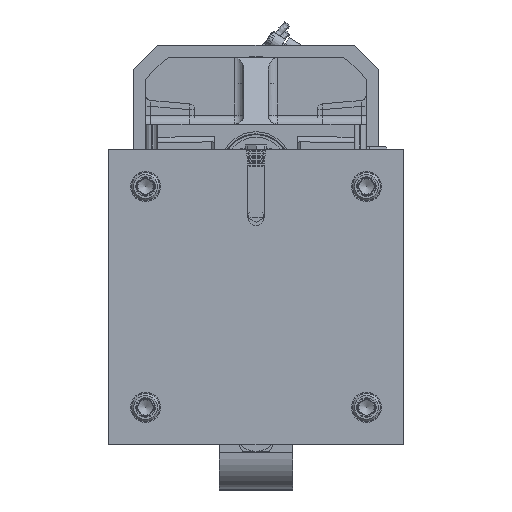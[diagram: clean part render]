
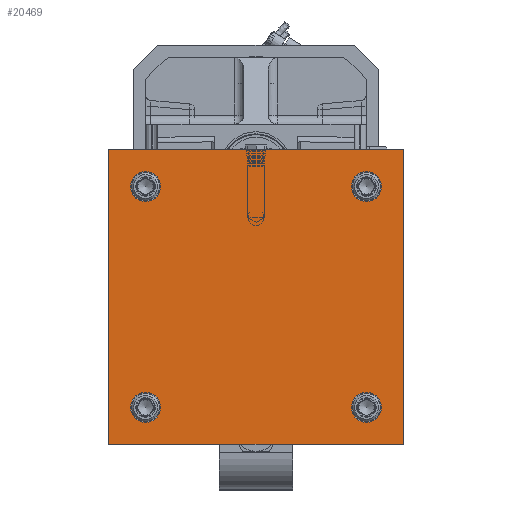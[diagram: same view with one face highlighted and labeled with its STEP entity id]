
A CAD part, top view. The second image highlights one B-rep face of the part: STEP entity #20469.
In plain terms, the highlighted planar face has unit normal (0, 0, 1).
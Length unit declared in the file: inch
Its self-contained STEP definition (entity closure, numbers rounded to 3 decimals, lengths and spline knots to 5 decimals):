
#625 = DIRECTION ( 'NONE',  ( 0., 0., 1. ) ) ;
#815 = CIRCLE ( 'NONE', #23180, 0.305 ) ;
#982 = DIRECTION ( 'NONE',  ( 0., 0., 1. ) ) ;
#1198 = LINE ( 'NONE', #46727, #40034 ) ;
#1605 = EDGE_CURVE ( 'NONE', #11706, #51990, #52181, .T. ) ;
#2092 = LINE ( 'NONE', #2618, #8223 ) ;
#2618 = CARTESIAN_POINT ( 'NONE',  ( -3., -5.656, 14.38 ) ) ;
#3100 = CARTESIAN_POINT ( 'NONE',  ( -1.945, -0.406, 14.38 ) ) ;
#3800 = ORIENTED_EDGE ( 'NONE', *, *, #27037, .F. ) ;
#3872 = CARTESIAN_POINT ( 'NONE',  ( -3., 0.344, 14.38 ) ) ;
#4513 = CARTESIAN_POINT ( 'NONE',  ( -2.25, -4.906, 14.38 ) ) ;
#5084 = ORIENTED_EDGE ( 'NONE', *, *, #39223, .T. ) ;
#5804 = CARTESIAN_POINT ( 'NONE',  ( 2.555, -4.906, 14.38 ) ) ;
#8211 = ORIENTED_EDGE ( 'NONE', *, *, #15971, .F. ) ;
#8223 = VECTOR ( 'NONE', #27392, 39.37008 ) ;
#8323 = CARTESIAN_POINT ( 'NONE',  ( 2.25, -0.406, 14.38 ) ) ;
#10875 = EDGE_LOOP ( 'NONE', ( #47041 ) ) ;
#11347 = EDGE_CURVE ( 'NONE', #27404, #11706, #1198, .T. ) ;
#11426 = LINE ( 'NONE', #28114, #51341 ) ;
#11706 = VERTEX_POINT ( 'NONE', #29631 ) ;
#11768 = AXIS2_PLACEMENT_3D ( 'NONE', #13107, #982, #37098 ) ;
#12714 = EDGE_CURVE ( 'NONE', #51990, #26113, #11426, .T. ) ;
#13030 = VERTEX_POINT ( 'NONE', #25403 ) ;
#13107 = CARTESIAN_POINT ( 'NONE',  ( -2.25, -0.406, 14.38 ) ) ;
#13583 = ORIENTED_EDGE ( 'NONE', *, *, #12714, .T. ) ;
#15971 = EDGE_CURVE ( 'NONE', #37448, #37448, #815, .T. ) ;
#16029 = EDGE_LOOP ( 'NONE', ( #3800 ) ) ;
#16254 = FACE_BOUND ( 'NONE', #37593, .T. ) ;
#16703 = CARTESIAN_POINT ( 'NONE',  ( -1.945, -4.906, 14.38 ) ) ;
#17663 = VERTEX_POINT ( 'NONE', #5804 ) ;
#18236 = CARTESIAN_POINT ( 'NONE',  ( -3., 0.344, 14.38 ) ) ;
#20469 = ADVANCED_FACE ( 'NONE', ( #16254, #33209, #40761, #33478, #28100 ), #28617, .F. ) ;
#21472 = EDGE_CURVE ( 'NONE', #17663, #17663, #26945, .T. ) ;
#21772 = EDGE_LOOP ( 'NONE', ( #13583, #5084, #34526, #44326 ) ) ;
#23180 = AXIS2_PLACEMENT_3D ( 'NONE', #4513, #29283, #24168 ) ;
#23532 = ORIENTED_EDGE ( 'NONE', *, *, #34572, .F. ) ;
#24168 = DIRECTION ( 'NONE',  ( 1., 0., 0. ) ) ;
#24947 = CARTESIAN_POINT ( 'NONE',  ( -3., -5.656, 14.38 ) ) ;
#25403 = CARTESIAN_POINT ( 'NONE',  ( 2.555, -0.406, 14.38 ) ) ;
#26113 = VERTEX_POINT ( 'NONE', #24947 ) ;
#26945 = CIRCLE ( 'NONE', #52782, 0.305 ) ;
#27037 = EDGE_CURVE ( 'NONE', #31366, #31366, #34983, .T. ) ;
#27108 = DIRECTION ( 'NONE',  ( -1., 0., 0. ) ) ;
#27392 = DIRECTION ( 'NONE',  ( 1., 0., 0. ) ) ;
#27404 = VERTEX_POINT ( 'NONE', #34831 ) ;
#28100 = FACE_OUTER_BOUND ( 'NONE', #21772, .T. ) ;
#28114 = CARTESIAN_POINT ( 'NONE',  ( -3., -5.656, 14.38 ) ) ;
#28617 = PLANE ( 'NONE',  #34648 ) ;
#29283 = DIRECTION ( 'NONE',  ( 0., 0., 1. ) ) ;
#29439 = CIRCLE ( 'NONE', #51843, 0.305 ) ;
#29631 = CARTESIAN_POINT ( 'NONE',  ( 3., 0.344, 14.38 ) ) ;
#30171 = VECTOR ( 'NONE', #27108, 39.37008 ) ;
#30536 = DIRECTION ( 'NONE',  ( 0., 1., 0. ) ) ;
#31366 = VERTEX_POINT ( 'NONE', #3100 ) ;
#31627 = DIRECTION ( 'NONE',  ( 0., -1., 0. ) ) ;
#33209 = FACE_BOUND ( 'NONE', #16029, .T. ) ;
#33478 = FACE_BOUND ( 'NONE', #35481, .T. ) ;
#34526 = ORIENTED_EDGE ( 'NONE', *, *, #11347, .T. ) ;
#34572 = EDGE_CURVE ( 'NONE', #13030, #13030, #29439, .T. ) ;
#34648 = AXIS2_PLACEMENT_3D ( 'NONE', #3872, #49658, #49385 ) ;
#34831 = CARTESIAN_POINT ( 'NONE',  ( 3., -5.656, 14.38 ) ) ;
#34983 = CIRCLE ( 'NONE', #11768, 0.305 ) ;
#35481 = EDGE_LOOP ( 'NONE', ( #8211 ) ) ;
#37098 = DIRECTION ( 'NONE',  ( 1., 0., 0. ) ) ;
#37448 = VERTEX_POINT ( 'NONE', #16703 ) ;
#37593 = EDGE_LOOP ( 'NONE', ( #23532 ) ) ;
#39223 = EDGE_CURVE ( 'NONE', #26113, #27404, #2092, .T. ) ;
#40034 = VECTOR ( 'NONE', #30536, 39.37008 ) ;
#40761 = FACE_BOUND ( 'NONE', #10875, .T. ) ;
#41184 = DIRECTION ( 'NONE',  ( 1., 0., 0. ) ) ;
#42447 = CARTESIAN_POINT ( 'NONE',  ( -3., 0.344, 14.38 ) ) ;
#44326 = ORIENTED_EDGE ( 'NONE', *, *, #1605, .T. ) ;
#45086 = DIRECTION ( 'NONE',  ( 1., 0., 0. ) ) ;
#46727 = CARTESIAN_POINT ( 'NONE',  ( 3., -5.656, 14.38 ) ) ;
#47041 = ORIENTED_EDGE ( 'NONE', *, *, #21472, .F. ) ;
#49385 = DIRECTION ( 'NONE',  ( -1., 0., 0. ) ) ;
#49540 = DIRECTION ( 'NONE',  ( 0., 0., 1. ) ) ;
#49658 = DIRECTION ( 'NONE',  ( 0., 0., -1. ) ) ;
#51341 = VECTOR ( 'NONE', #31627, 39.37008 ) ;
#51843 = AXIS2_PLACEMENT_3D ( 'NONE', #8323, #49540, #41184 ) ;
#51990 = VERTEX_POINT ( 'NONE', #42447 ) ;
#52181 = LINE ( 'NONE', #18236, #30171 ) ;
#52782 = AXIS2_PLACEMENT_3D ( 'NONE', #53180, #625, #45086 ) ;
#53180 = CARTESIAN_POINT ( 'NONE',  ( 2.25, -4.906, 14.38 ) ) ;
